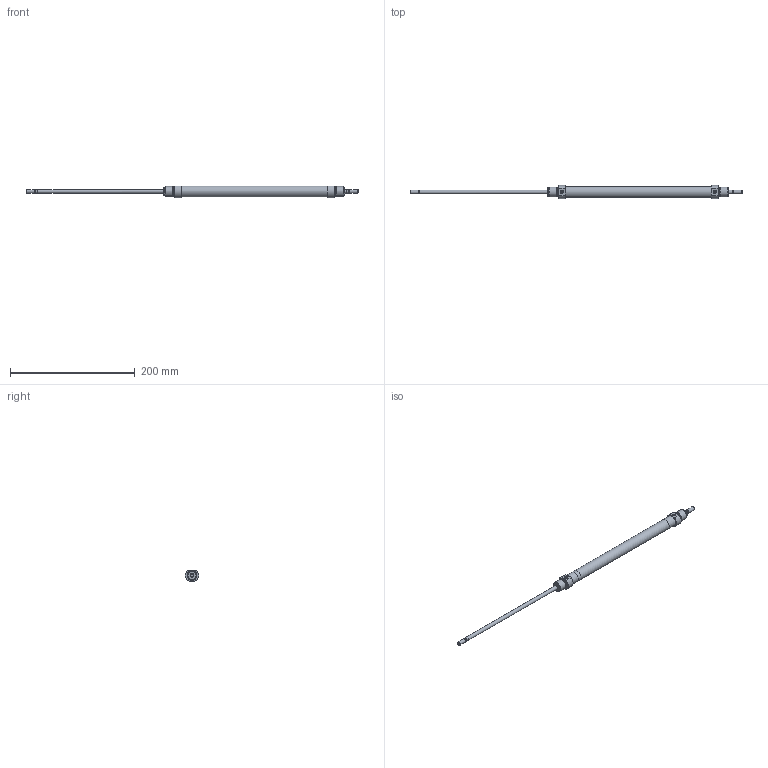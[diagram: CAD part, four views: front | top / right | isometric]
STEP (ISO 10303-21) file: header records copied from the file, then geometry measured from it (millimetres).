
FILE_DESCRIPTION( ( 'STEP AP203' ), '1' );
FILE_NAME( '//expscmdclustefs.cadenas.external/client_exchange/iodir/jobs/output/wkb68413586_no0/STEP/M101-016-0200-M__0__2_03.stp', ' ', ( ' ' ), ( ' ' ), 'PSStep 15.0.47', 'PARTsolutions', ' ' );
FILE_SCHEMA( ( 'CONFIG_CONTROL_DESIGN' ) );
Length unit declared in the file: millimetre
Products named in the file (3): M101-016-0200-M [0]; HI_M101-016-0200-M-[0]-z; HI_M101-016-0200-M-[0]-k
Assembly tree (2 placements, depth 2):
  M101-016-0200-M [0]
    HI_M101-016-0200-M-[0]-z
    HI_M101-016-0200-M-[0]-k
Bounding box: 532 x 20.94 x 19.09 mm (x, y, z)
Volume: 40865.3 mm3; surface area: 39659.1 mm2
Topology: 2 solids, 2 shells, 67 faces, 135 edges, 82 vertices
Faces by surface type: plane 28, cylinder 23, cone 14, torus 2
Full cylindrical faces by diameter (mm): 4.134 x2, 4.773 x2, 6 x6, 14.16 x4, 16 x6, 17.3 x1
Entity records: 1730 total; most frequent: CARTESIAN_POINT 334, DIRECTION 292, ORIENTED_EDGE 196, AXIS2_PLACEMENT_3D 132, EDGE_LOOP 116, EDGE_CURVE 98, FACE_OUTER_BOUND 90, VERTEX_POINT 78
